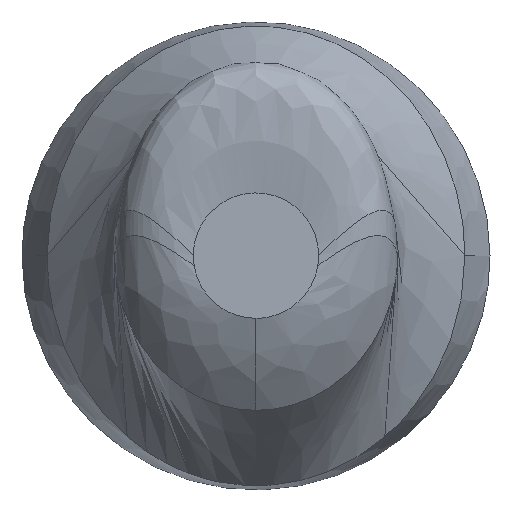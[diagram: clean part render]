
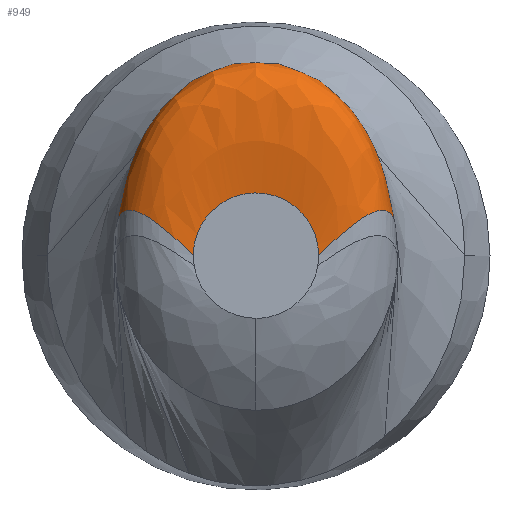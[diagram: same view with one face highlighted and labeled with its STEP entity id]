
A CAD part, top view. The second image highlights one B-rep face of the part: STEP entity #949.
In plain terms, the highlighted free-form (B-spline) face has degree [3, 3] with [4, 13] control points.
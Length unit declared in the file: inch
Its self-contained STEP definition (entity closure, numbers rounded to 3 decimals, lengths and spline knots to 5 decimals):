
#159=CARTESIAN_POINT('',(-75.,0.,260.));
#164=CARTESIAN_POINT('',(-166.98664,33.08958,195.00673));
#169=CARTESIAN_POINT('',(-75.,0.,260.));
#170=CARTESIAN_POINT('',(-133.08916,58.68982,266.80793));
#171=CARTESIAN_POINT('',(-163.75151,69.71859,245.1435));
#172=CARTESIAN_POINT('',(-166.98664,33.08958,195.00673));
#174=CARTESIAN_POINT('',(75.,0.,260.));
#175=CARTESIAN_POINT('',(75.,10.45237,260.));
#176=CARTESIAN_POINT('',(71.69073,26.08272,260.));
#177=CARTESIAN_POINT('',(61.1326,44.40433,260.));
#178=CARTESIAN_POINT('',(48.00165,58.98654,260.));
#179=CARTESIAN_POINT('',(27.60085,71.5598,260.));
#180=CARTESIAN_POINT('',(0.,76.7201,260.));
#181=CARTESIAN_POINT('',(-27.60085,71.5598,260.));
#182=CARTESIAN_POINT('',(-48.00165,58.98654,260.));
#183=CARTESIAN_POINT('',(-61.1326,44.40433,260.));
#184=CARTESIAN_POINT('',(-71.69073,26.08272,260.));
#185=CARTESIAN_POINT('',(-75.,10.45237,260.));
#186=CARTESIAN_POINT('',(-75.,0.,260.));
#188=CARTESIAN_POINT('',(-165.90258,40.99929,195.08697));
#189=CARTESIAN_POINT('',(-166.10376,39.68153,195.08309));
#190=CARTESIAN_POINT('',(-166.47685,37.04839,194.9083));
#191=CARTESIAN_POINT('',(-166.82507,34.40932,195.00593));
#192=CARTESIAN_POINT('',(-166.98664,33.08958,195.00673));
#194=CARTESIAN_POINT('',(-165.90258,40.99929,195.08697));
#195=CARTESIAN_POINT('',(-163.97044,53.65515,195.12428));
#196=CARTESIAN_POINT('',(-158.35657,78.13273,195.11902));
#197=CARTESIAN_POINT('',(-145.57788,111.18078,194.97099));
#198=CARTESIAN_POINT('',(-134.66068,130.42722,194.99676));
#199=CARTESIAN_POINT('',(-128.7569,139.26107,194.99865));
#201=CARTESIAN_POINT('',(-128.7569,139.26107,194.99865));
#202=CARTESIAN_POINT('',(-127.31651,141.41599,194.99866));
#203=CARTESIAN_POINT('',(-118.56107,154.00954,195.0081));
#204=CARTESIAN_POINT('',(-95.01864,180.73663,194.99686));
#205=CARTESIAN_POINT('',(-53.02864,207.92141,195.0032));
#206=CARTESIAN_POINT('',(0.,218.54093,195.00081));
#207=CARTESIAN_POINT('',(53.02864,207.92141,195.0032));
#208=CARTESIAN_POINT('',(95.01864,180.73663,194.99686));
#209=CARTESIAN_POINT('',(118.56107,154.00954,195.0081));
#210=CARTESIAN_POINT('',(127.31651,141.41599,194.99866));
#211=CARTESIAN_POINT('',(128.7569,139.26107,194.99865));
#213=CARTESIAN_POINT('',(128.7569,139.26107,194.99865));
#214=CARTESIAN_POINT('',(134.65819,130.43096,194.99676));
#215=CARTESIAN_POINT('',(145.57227,111.19016,194.96515));
#216=CARTESIAN_POINT('',(158.35149,78.15473,195.13941));
#217=CARTESIAN_POINT('',(163.96629,53.66245,195.08044));
#218=CARTESIAN_POINT('',(165.90038,40.99761,195.04328));
#220=CARTESIAN_POINT('',(166.98673,33.08746,195.00242));
#221=CARTESIAN_POINT('',(166.82433,34.41263,194.99557));
#222=CARTESIAN_POINT('',(166.47979,37.05366,194.98962));
#223=CARTESIAN_POINT('',(166.09997,39.68497,195.02109));
#224=CARTESIAN_POINT('',(165.90038,40.99761,195.04328));
#226=CARTESIAN_POINT('',(75.,0.,260.));
#227=CARTESIAN_POINT('',(133.09251,58.6932,266.80832));
#228=CARTESIAN_POINT('',(163.75457,69.72407,245.14535));
#229=CARTESIAN_POINT('',(166.98673,33.08746,195.00242));
#279=VERTEX_POINT('',#164);
#280=VERTEX_POINT('',#213);
#281=VERTEX_POINT('',#218);
#282=VERTEX_POINT('',#220);
#283=VERTEX_POINT('',#201);
#284=VERTEX_POINT('',#188);
#289=VERTEX_POINT('',#159);
#290=VERTEX_POINT('',#174);
#885=CARTESIAN_POINT('',(-73.41186,-2.74801,259.81781));
#886=CARTESIAN_POINT('',(-73.59716,7.7425,259.73736));
#887=CARTESIAN_POINT('',(-70.40339,23.29945,259.62021));
#888=CARTESIAN_POINT('',(-59.87397,41.40425,259.48913));
#889=CARTESIAN_POINT('',(-47.01783,55.57054,259.39074));
#890=CARTESIAN_POINT('',(-27.04249,67.82705,259.31473));
#891=CARTESIAN_POINT('',(0.,72.86684,259.28545));
#892=CARTESIAN_POINT('',(27.04249,67.82705,259.31473));
#893=CARTESIAN_POINT('',(47.01783,55.57054,259.39074));
#894=CARTESIAN_POINT('',(59.87397,41.40425,259.48913));
#895=CARTESIAN_POINT('',(70.53834,23.06742,259.62189));
#896=CARTESIAN_POINT('',(73.70427,7.21354,259.74135));
#897=CARTESIAN_POINT('',(73.39342,-3.53994,259.82389));
#898=CARTESIAN_POINT('',(-133.11939,56.40017,266.93799));
#899=CARTESIAN_POINT('',(-132.88069,80.49656,269.91458));
#900=CARTESIAN_POINT('',(-126.68451,115.6377,274.24923));
#901=CARTESIAN_POINT('',(-107.50838,155.09763,279.09946));
#902=CARTESIAN_POINT('',(-84.26049,185.00998,282.73956));
#903=CARTESIAN_POINT('',(-48.18329,209.25854,285.55225));
#904=CARTESIAN_POINT('',(0.,218.86142,
286.63547));
#905=CARTESIAN_POINT('',(48.18329,209.25854,285.55225));
#906=CARTESIAN_POINT('',(84.26049,185.00998,282.73956));
#907=CARTESIAN_POINT('',(107.50838,155.09763,279.09946));
#908=CARTESIAN_POINT('',(126.93028,115.13197,274.18706));
#909=CARTESIAN_POINT('',(133.08876,79.3014,269.76715));
#910=CARTESIAN_POINT('',(133.12992,54.58036,266.71319));
#911=CARTESIAN_POINT('',(-164.46347,66.94571,244.87));
#912=CARTESIAN_POINT('',(-163.08136,97.20151,247.84594));
#913=CARTESIAN_POINT('',(-153.98178,141.0829,252.17965));
#914=CARTESIAN_POINT('',(-129.21019,189.76421,257.02883));
#915=CARTESIAN_POINT('',(-100.21381,226.31624,260.66814));
#916=CARTESIAN_POINT('',(-56.81123,255.52037,263.48022));
#917=CARTESIAN_POINT('',(0.,266.97647,
264.56321));
#918=CARTESIAN_POINT('',(56.81123,255.52037,263.48022));
#919=CARTESIAN_POINT('',(100.21381,226.31624,260.66814));
#920=CARTESIAN_POINT('',(129.21019,189.76421,257.02883));
#921=CARTESIAN_POINT('',(154.29926,140.45898,252.1175));
#922=CARTESIAN_POINT('',(163.38767,95.70896,247.69855));
#923=CARTESIAN_POINT('',(164.55877,64.66041,244.64525));
#924=CARTESIAN_POINT('',(-167.4441,28.8886,193.61384));
#925=CARTESIAN_POINT('',(-164.19917,57.85734,193.53145));
#926=CARTESIAN_POINT('',(-152.29522,99.63506,193.41148));
#927=CARTESIAN_POINT('',(-124.9794,145.40399,193.27724));
#928=CARTESIAN_POINT('',(-94.87779,179.48932,193.17649));
#929=CARTESIAN_POINT('',(-52.92631,206.61255,193.09864));
#930=CARTESIAN_POINT('',(0.,217.212,
193.06866));
#931=CARTESIAN_POINT('',(52.92631,206.61255,193.09864));
#932=CARTESIAN_POINT('',(94.87779,179.48932,193.17649));
#933=CARTESIAN_POINT('',(124.9794,145.40399,193.27724));
#934=CARTESIAN_POINT('',(152.64531,99.04847,193.4132));
#935=CARTESIAN_POINT('',(164.60099,56.43621,193.53553));
#936=CARTESIAN_POINT('',(167.67996,26.70021,193.62006));
#937=B_SPLINE_SURFACE_WITH_KNOTS('',3,3,((#885,#886,#887,#888,#889,#890,#891,
#892,#893,#894,#895,#896,#897),(#898,#899,#900,#901,#902,#903,#904,#905,#906,
#907,#908,#909,#910),(#911,#912,#913,#914,#915,#916,#917,#918,#919,#920,#921,
#922,#923),(#924,#925,#926,#927,#928,#929,#930,#931,#932,#933,#934,#935,#936)),
.UNSPECIFIED.,.F.,.F.,.F.,(4,4),(4,1,1,1,1,1,1,1,1,1,4),(-0.00901,
1.00923),(0.2513,0.3208,0.35428,
0.38776,0.44388,0.5,0.55612,0.61224,
0.64572,0.6792,0.75045),.UNSPECIFIED.);
#938=ORIENTED_EDGE('',*,*,#849,.T.);
#939=ORIENTED_EDGE('',*,*,#880,.T.);
#940=ORIENTED_EDGE('',*,*,#540,.F.);
#941=ORIENTED_EDGE('',*,*,#538,.T.);
#942=ORIENTED_EDGE('',*,*,#621,.T.);
#943=ORIENTED_EDGE('',*,*,#663,.T.);
#944=ORIENTED_EDGE('',*,*,#661,.F.);
#946=ORIENTED_EDGE('',*,*,#945,.F.);
#947=EDGE_LOOP('',(#938,#939,#940,#941,#942,#943,#944,#946));
#948=FACE_OUTER_BOUND('',#947,.F.);
#949=ADVANCED_FACE('',(#948),#937,.F.);
#173=B_SPLINE_CURVE_WITH_KNOTS('',3,(#169,#170,#171,#172),.UNSPECIFIED.,.F.,.F.,
(4,4),(0.,1.),.UNSPECIFIED.);
#187=B_SPLINE_CURVE_WITH_KNOTS('',3,(#174,#175,#176,#177,#178,#179,#180,#181,
#182,#183,#184,#185,#186),.UNSPECIFIED.,.F.,.F.,(4,1,1,1,1,1,1,1,1,1,4),(0.,
0.13601,0.20402,0.27202,0.38601,0.5,
0.61399,0.72798,0.79598,0.86399,1.),
.UNSPECIFIED.);
#193=B_SPLINE_CURVE_WITH_KNOTS('',3,(#188,#189,#190,#191,#192),.UNSPECIFIED.,
.F.,.F.,(4,1,4),(0.,0.5,1.),.UNSPECIFIED.);
#200=B_SPLINE_CURVE_WITH_KNOTS('',3,(#194,#195,#196,#197,#198,#199),
.UNSPECIFIED.,.F.,.F.,(4,1,1,4),(0.,0.33333,0.66667,1.),
.UNSPECIFIED.);
#212=B_SPLINE_CURVE_WITH_KNOTS('',3,(#201,#202,#203,#204,#205,#206,#207,#208,
#209,#210,#211),.UNSPECIFIED.,.F.,.F.,(4,1,1,1,1,1,1,1,4),(0.,
0.0222,0.13198,0.31599,0.5,
0.68401,0.86802,0.9778,1.),.UNSPECIFIED.);
#219=B_SPLINE_CURVE_WITH_KNOTS('',3,(#213,#214,#215,#216,#217,#218),
.UNSPECIFIED.,.F.,.F.,(4,1,1,4),(0.,0.33333,0.66667,1.),
.UNSPECIFIED.);
#225=B_SPLINE_CURVE_WITH_KNOTS('',3,(#220,#221,#222,#223,#224),.UNSPECIFIED.,
.F.,.F.,(4,1,4),(0.,0.5,1.),.UNSPECIFIED.);
#230=B_SPLINE_CURVE_WITH_KNOTS('',3,(#226,#227,#228,#229),.UNSPECIFIED.,.F.,.F.,
(4,4),(0.,1.),.UNSPECIFIED.);
#538=EDGE_CURVE('',#284,#283,#200,.T.);
#540=EDGE_CURVE('',#284,#279,#193,.T.);
#621=EDGE_CURVE('',#283,#280,#212,.T.);
#661=EDGE_CURVE('',#282,#281,#225,.T.);
#663=EDGE_CURVE('',#280,#281,#219,.T.);
#849=EDGE_CURVE('',#290,#289,#187,.T.);
#880=EDGE_CURVE('',#289,#279,#173,.T.);
#945=EDGE_CURVE('',#290,#282,#230,.T.);
